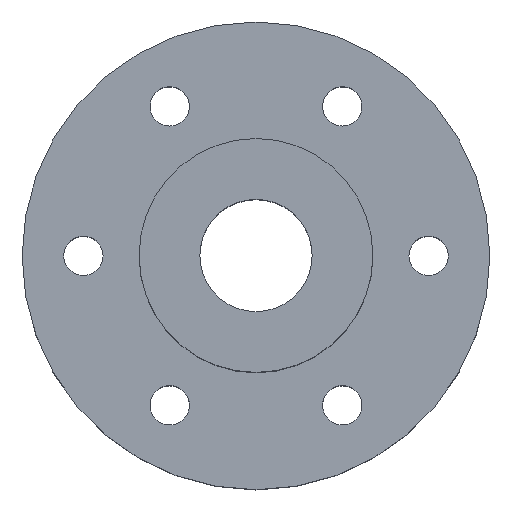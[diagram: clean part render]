
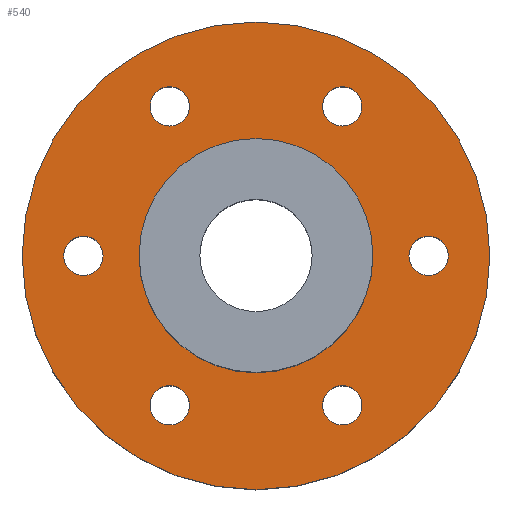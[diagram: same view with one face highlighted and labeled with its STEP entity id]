
A CAD part, top view. The second image highlights one B-rep face of the part: STEP entity #540.
In plain terms, the highlighted planar face has unit normal (0, 0, 1).
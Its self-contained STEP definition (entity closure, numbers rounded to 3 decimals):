
#375=CARTESIAN_POINT('',(0.,0.,15.));
#376=DIRECTION('',(0.,0.,1.));
#377=DIRECTION('',(1.,0.,0.));
#378=AXIS2_PLACEMENT_3D('',#375,#376,#377);
#379=PLANE('',#378);
#380=CARTESIAN_POINT('',(25.,-0.,15.));
#381=VERTEX_POINT('',#380);
#382=CARTESIAN_POINT('',(-25.,0.,15.));
#383=VERTEX_POINT('',#382);
#384=CARTESIAN_POINT('',(0.,0.,15.));
#385=DIRECTION('',(0.,0.,1.));
#386=DIRECTION('',(1.,0.,-0.));
#387=AXIS2_PLACEMENT_3D('',#384,#385,#386);
#388=CIRCLE('',#387,25.);
#389=EDGE_CURVE('',#381,#383,#388,.T.);
#390=ORIENTED_EDGE('',*,*,#389,.T.);
#391=CARTESIAN_POINT('',(0.,0.,15.));
#392=DIRECTION('',(0.,0.,1.));
#393=DIRECTION('',(1.,0.,-0.));
#394=AXIS2_PLACEMENT_3D('',#391,#392,#393);
#395=CIRCLE('',#394,25.);
#396=EDGE_CURVE('',#383,#381,#395,.T.);
#397=ORIENTED_EDGE('',*,*,#396,.T.);
#398=EDGE_LOOP('',(#390,#397));
#399=FACE_BOUND('',#398,.T.);
#400=CARTESIAN_POINT('',(-12.5,0.,15.));
#401=VERTEX_POINT('',#400);
#402=CARTESIAN_POINT('',(12.5,-0.,15.));
#403=VERTEX_POINT('',#402);
#404=CARTESIAN_POINT('',(0.,0.,15.));
#405=DIRECTION('',(0.,0.,1.));
#406=DIRECTION('',(1.,0.,-0.));
#407=AXIS2_PLACEMENT_3D('',#404,#405,#406);
#408=CIRCLE('',#407,12.5);
#409=EDGE_CURVE('',#401,#403,#408,.T.);
#410=ORIENTED_EDGE('',*,*,#409,.F.);
#411=CARTESIAN_POINT('',(0.,0.,15.));
#412=DIRECTION('',(0.,0.,1.));
#413=DIRECTION('',(1.,0.,-0.));
#414=AXIS2_PLACEMENT_3D('',#411,#412,#413);
#415=CIRCLE('',#414,12.5);
#416=EDGE_CURVE('',#403,#401,#415,.T.);
#417=ORIENTED_EDGE('',*,*,#416,.F.);
#418=EDGE_LOOP('',(#410,#417));
#419=FACE_BOUND('',#418,.T.);
#420=CARTESIAN_POINT('',(-7.123,15.975,15.));
#421=VERTEX_POINT('',#420);
#422=CARTESIAN_POINT('',(-11.323,15.975,15.));
#423=VERTEX_POINT('',#422);
#424=CARTESIAN_POINT('',(-9.223,15.975,15.));
#425=DIRECTION('',(-0.,-0.,-1.));
#426=DIRECTION('',(1.,0.,-0.));
#427=AXIS2_PLACEMENT_3D('',#424,#425,#426);
#428=CIRCLE('',#427,2.1);
#429=EDGE_CURVE('',#421,#423,#428,.T.);
#430=ORIENTED_EDGE('',*,*,#429,.T.);
#431=CARTESIAN_POINT('',(-9.223,15.975,15.));
#432=DIRECTION('',(-0.,-0.,-1.));
#433=DIRECTION('',(1.,0.,-0.));
#434=AXIS2_PLACEMENT_3D('',#431,#432,#433);
#435=CIRCLE('',#434,2.1);
#436=EDGE_CURVE('',#423,#421,#435,.T.);
#437=ORIENTED_EDGE('',*,*,#436,.T.);
#438=EDGE_LOOP('',(#430,#437));
#439=FACE_BOUND('',#438,.T.);
#440=CARTESIAN_POINT('',(-16.346,-0.,15.));
#441=VERTEX_POINT('',#440);
#442=CARTESIAN_POINT('',(-20.546,-0.,15.));
#443=VERTEX_POINT('',#442);
#444=CARTESIAN_POINT('',(-18.446,0.,15.));
#445=DIRECTION('',(-0.,-0.,-1.));
#446=DIRECTION('',(1.,0.,-0.));
#447=AXIS2_PLACEMENT_3D('',#444,#445,#446);
#448=CIRCLE('',#447,2.1);
#449=EDGE_CURVE('',#441,#443,#448,.T.);
#450=ORIENTED_EDGE('',*,*,#449,.T.);
#451=CARTESIAN_POINT('',(-18.446,0.,15.));
#452=DIRECTION('',(-0.,-0.,-1.));
#453=DIRECTION('',(1.,0.,-0.));
#454=AXIS2_PLACEMENT_3D('',#451,#452,#453);
#455=CIRCLE('',#454,2.1);
#456=EDGE_CURVE('',#443,#441,#455,.T.);
#457=ORIENTED_EDGE('',*,*,#456,.T.);
#458=EDGE_LOOP('',(#450,#457));
#459=FACE_BOUND('',#458,.T.);
#460=CARTESIAN_POINT('',(11.323,15.975,15.));
#461=VERTEX_POINT('',#460);
#462=CARTESIAN_POINT('',(7.123,15.975,15.));
#463=VERTEX_POINT('',#462);
#464=CARTESIAN_POINT('',(9.223,15.975,15.));
#465=DIRECTION('',(-0.,-0.,-1.));
#466=DIRECTION('',(1.,0.,-0.));
#467=AXIS2_PLACEMENT_3D('',#464,#465,#466);
#468=CIRCLE('',#467,2.1);
#469=EDGE_CURVE('',#461,#463,#468,.T.);
#470=ORIENTED_EDGE('',*,*,#469,.T.);
#471=CARTESIAN_POINT('',(9.223,15.975,15.));
#472=DIRECTION('',(-0.,-0.,-1.));
#473=DIRECTION('',(1.,0.,-0.));
#474=AXIS2_PLACEMENT_3D('',#471,#472,#473);
#475=CIRCLE('',#474,2.1);
#476=EDGE_CURVE('',#463,#461,#475,.T.);
#477=ORIENTED_EDGE('',*,*,#476,.T.);
#478=EDGE_LOOP('',(#470,#477));
#479=FACE_BOUND('',#478,.T.);
#480=CARTESIAN_POINT('',(-7.123,-15.975,15.));
#481=VERTEX_POINT('',#480);
#482=CARTESIAN_POINT('',(-11.323,-15.975,15.));
#483=VERTEX_POINT('',#482);
#484=CARTESIAN_POINT('',(-9.223,-15.975,15.));
#485=DIRECTION('',(-0.,-0.,-1.));
#486=DIRECTION('',(1.,0.,-0.));
#487=AXIS2_PLACEMENT_3D('',#484,#485,#486);
#488=CIRCLE('',#487,2.1);
#489=EDGE_CURVE('',#481,#483,#488,.T.);
#490=ORIENTED_EDGE('',*,*,#489,.T.);
#491=CARTESIAN_POINT('',(-9.223,-15.975,15.));
#492=DIRECTION('',(-0.,-0.,-1.));
#493=DIRECTION('',(1.,0.,-0.));
#494=AXIS2_PLACEMENT_3D('',#491,#492,#493);
#495=CIRCLE('',#494,2.1);
#496=EDGE_CURVE('',#483,#481,#495,.T.);
#497=ORIENTED_EDGE('',*,*,#496,.T.);
#498=EDGE_LOOP('',(#490,#497));
#499=FACE_BOUND('',#498,.T.);
#500=CARTESIAN_POINT('',(11.323,-15.975,15.));
#501=VERTEX_POINT('',#500);
#502=CARTESIAN_POINT('',(7.123,-15.975,15.));
#503=VERTEX_POINT('',#502);
#504=CARTESIAN_POINT('',(9.223,-15.975,15.));
#505=DIRECTION('',(-0.,-0.,-1.));
#506=DIRECTION('',(1.,0.,-0.));
#507=AXIS2_PLACEMENT_3D('',#504,#505,#506);
#508=CIRCLE('',#507,2.1);
#509=EDGE_CURVE('',#501,#503,#508,.T.);
#510=ORIENTED_EDGE('',*,*,#509,.T.);
#511=CARTESIAN_POINT('',(9.223,-15.975,15.));
#512=DIRECTION('',(-0.,-0.,-1.));
#513=DIRECTION('',(1.,0.,-0.));
#514=AXIS2_PLACEMENT_3D('',#511,#512,#513);
#515=CIRCLE('',#514,2.1);
#516=EDGE_CURVE('',#503,#501,#515,.T.);
#517=ORIENTED_EDGE('',*,*,#516,.T.);
#518=EDGE_LOOP('',(#510,#517));
#519=FACE_BOUND('',#518,.T.);
#520=CARTESIAN_POINT('',(20.546,0.,15.));
#521=VERTEX_POINT('',#520);
#522=CARTESIAN_POINT('',(16.346,0.,15.));
#523=VERTEX_POINT('',#522);
#524=CARTESIAN_POINT('',(18.446,0.,15.));
#525=DIRECTION('',(-0.,-0.,-1.));
#526=DIRECTION('',(1.,0.,-0.));
#527=AXIS2_PLACEMENT_3D('',#524,#525,#526);
#528=CIRCLE('',#527,2.1);
#529=EDGE_CURVE('',#521,#523,#528,.T.);
#530=ORIENTED_EDGE('',*,*,#529,.T.);
#531=CARTESIAN_POINT('',(18.446,0.,15.));
#532=DIRECTION('',(-0.,-0.,-1.));
#533=DIRECTION('',(1.,0.,-0.));
#534=AXIS2_PLACEMENT_3D('',#531,#532,#533);
#535=CIRCLE('',#534,2.1);
#536=EDGE_CURVE('',#523,#521,#535,.T.);
#537=ORIENTED_EDGE('',*,*,#536,.T.);
#538=EDGE_LOOP('',(#530,#537));
#539=FACE_BOUND('',#538,.T.);
#540=ADVANCED_FACE('',(#399,#419,#439,#459,#479,#499,#519,#539),#379,.T.);
